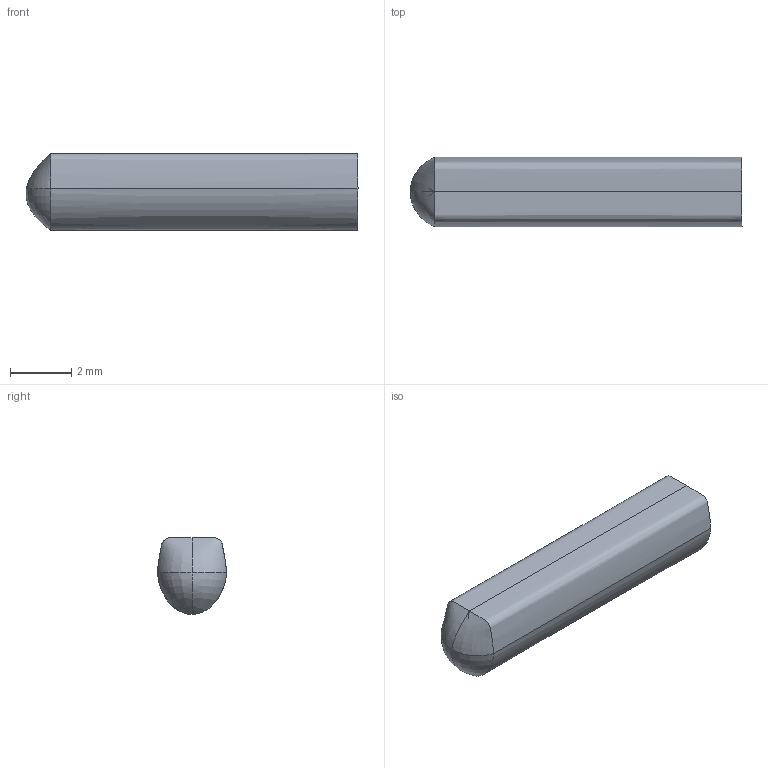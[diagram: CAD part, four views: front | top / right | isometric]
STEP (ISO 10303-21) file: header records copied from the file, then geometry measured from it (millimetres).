
FILE_DESCRIPTION((''),'2;1');
FILE_NAME('DE-TGC1','2004-11-23T',('gsawatzky'),(''),'PRO/ENGINEER BY PARAMETRIC TECHNOLOGY CORPORATION, 2002390','PRO/ENGINEER BY PARAMETRIC TECHNOLOGY CORPORATION, 2002390','');
FILE_SCHEMA(('CONFIG_CONTROL_DESIGN'));
Length unit declared in the file: millimetre
Products named in the file (1): DE-TGC1
Bounding box: 10.81 x 2.25 x 2.5 mm (x, y, z)
Surface area: 85.5 mm2 (no closed solid volume)
Topology: 0 solids, 0 shells, 8 faces, 36 edges, 32 vertices
Faces by surface type: bspline 8
Entity records: 1311 total; most frequent: CARTESIAN_POINT 988, DIRECTION 36, VECTOR 36, LINE 36, TRIMMED_CURVE 36, DEFINITIONAL_REPRESENTATION 32, PCURVE 32, COMPOSITE_CURVE_SEGMENT 32
